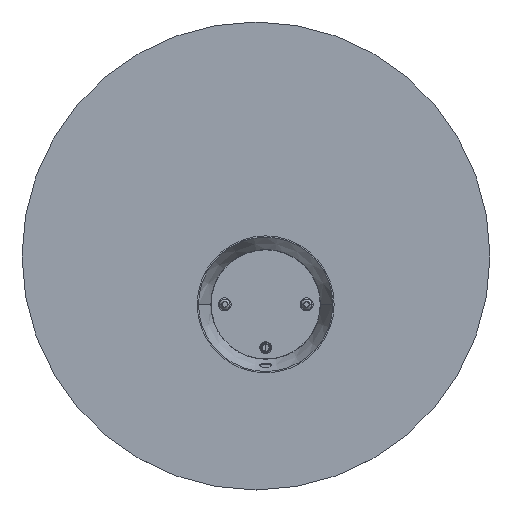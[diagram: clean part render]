
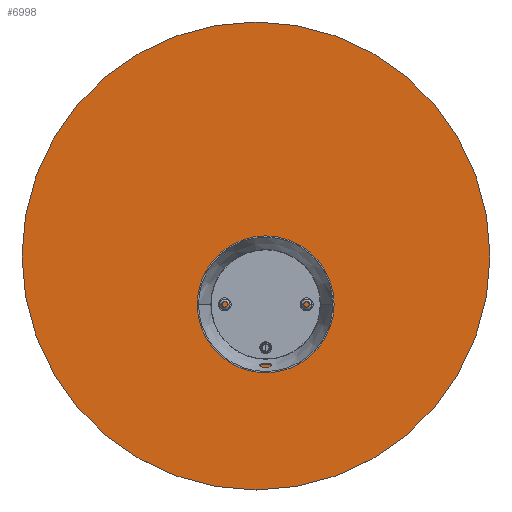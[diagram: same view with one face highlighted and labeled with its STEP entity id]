
A CAD part, top view. The second image highlights one B-rep face of the part: STEP entity #6998.
In plain terms, the highlighted planar face has unit normal (0, 0, 1).
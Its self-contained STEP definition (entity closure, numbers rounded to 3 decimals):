
#505 = DIRECTION ( 'NONE',  ( 0., -1., 0. ) ) ;
#668 = CIRCLE ( 'NONE', #4536, 2.5 ) ;
#778 = CIRCLE ( 'NONE', #1645, 2.5 ) ;
#865 = EDGE_CURVE ( 'NONE', #5925, #1898, #778, .T. ) ;
#1163 = CARTESIAN_POINT ( 'NONE',  ( 16.304, -80.286, -55.476 ) ) ;
#1203 = CARTESIAN_POINT ( 'NONE',  ( 16.304, 119.714, -55.476 ) ) ;
#1211 = AXIS2_PLACEMENT_3D ( 'NONE', #1203, #2907, #6038 ) ;
#1645 = AXIS2_PLACEMENT_3D ( 'NONE', #4580, #9342, #505 ) ;
#1898 = VERTEX_POINT ( 'NONE', #2062 ) ;
#1961 = DIRECTION ( 'NONE',  ( 0., -1., 0. ) ) ;
#2062 = CARTESIAN_POINT ( 'NONE',  ( 16.304, 122.214, -55.476 ) ) ;
#2506 = AXIS2_PLACEMENT_3D ( 'NONE', #3741, #6148, #10030 ) ;
#2611 = CARTESIAN_POINT ( 'NONE',  ( 16.304, 119.714, -55.476 ) ) ;
#2907 = DIRECTION ( 'NONE',  ( 0., 0., 1. ) ) ;
#3444 = EDGE_LOOP ( 'NONE', ( #7601, #4228 ) ) ;
#3741 = CARTESIAN_POINT ( 'NONE',  ( 16.304, 119.714, -55.476 ) ) ;
#3938 = EDGE_CURVE ( 'NONE', #8731, #4391, #6001, .T. ) ;
#4024 = ORIENTED_EDGE ( 'NONE', *, *, #4068, .F. ) ;
#4068 = EDGE_CURVE ( 'NONE', #1898, #5925, #668, .T. ) ;
#4228 = ORIENTED_EDGE ( 'NONE', *, *, #3938, .T. ) ;
#4391 = VERTEX_POINT ( 'NONE', #7421 ) ;
#4514 = EDGE_CURVE ( 'NONE', #4391, #8731, #4938, .T. ) ;
#4536 = AXIS2_PLACEMENT_3D ( 'NONE', #6735, #5073, #9894 ) ;
#4580 = CARTESIAN_POINT ( 'NONE',  ( 16.304, 119.714, -55.476 ) ) ;
#4610 = CARTESIAN_POINT ( 'NONE',  ( 16.304, 117.214, -55.476 ) ) ;
#4938 = CIRCLE ( 'NONE', #7956, 200. ) ;
#5073 = DIRECTION ( 'NONE',  ( 0., 0., 1. ) ) ;
#5720 = FACE_OUTER_BOUND ( 'NONE', #3444, .T. ) ;
#5925 = VERTEX_POINT ( 'NONE', #4610 ) ;
#6001 = CIRCLE ( 'NONE', #2506, 200. ) ;
#6038 = DIRECTION ( 'NONE',  ( 0., -1., 0. ) ) ;
#6148 = DIRECTION ( 'NONE',  ( 0., 0., 1. ) ) ;
#6541 = PLANE ( 'NONE',  #1211 ) ;
#6735 = CARTESIAN_POINT ( 'NONE',  ( 16.304, 119.714, -55.476 ) ) ;
#6998 = ADVANCED_FACE ( 'NONE', ( #5720, #8904 ), #6541, .T. ) ;
#7421 = CARTESIAN_POINT ( 'NONE',  ( 16.304, 319.714, -55.476 ) ) ;
#7601 = ORIENTED_EDGE ( 'NONE', *, *, #4514, .T. ) ;
#7956 = AXIS2_PLACEMENT_3D ( 'NONE', #2611, #9075, #1961 ) ;
#8731 = VERTEX_POINT ( 'NONE', #1163 ) ;
#8740 = ORIENTED_EDGE ( 'NONE', *, *, #865, .F. ) ;
#8904 = FACE_BOUND ( 'NONE', #9629, .T. ) ;
#9075 = DIRECTION ( 'NONE',  ( 0., 0., 1. ) ) ;
#9342 = DIRECTION ( 'NONE',  ( 0., 0., 1. ) ) ;
#9629 = EDGE_LOOP ( 'NONE', ( #4024, #8740 ) ) ;
#9894 = DIRECTION ( 'NONE',  ( 0., -1., 0. ) ) ;
#10030 = DIRECTION ( 'NONE',  ( 0., -1., 0. ) ) ;
